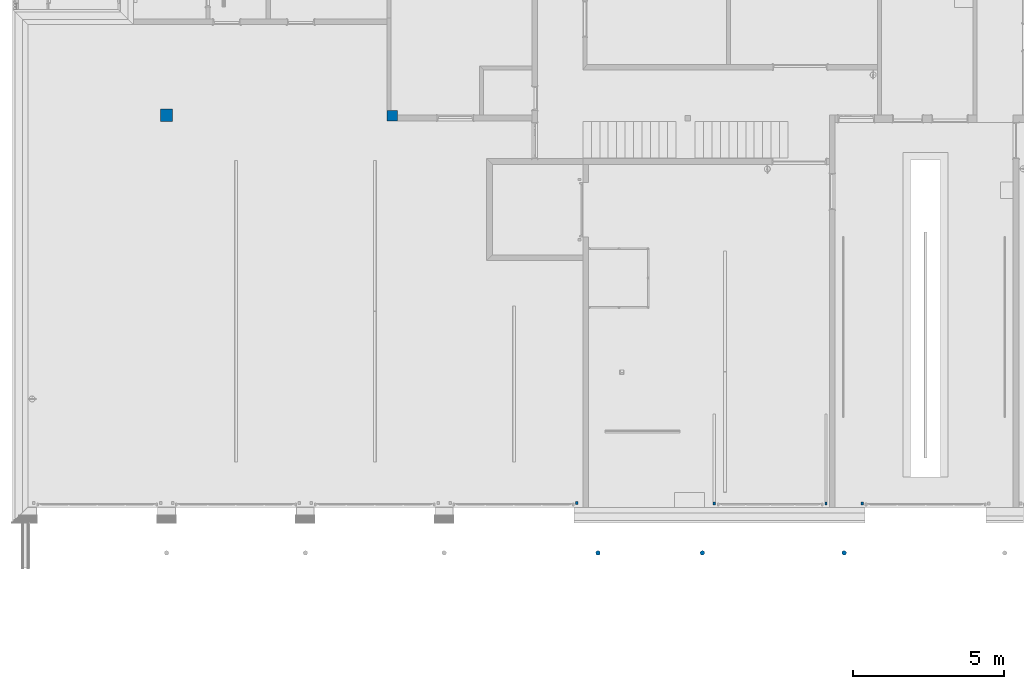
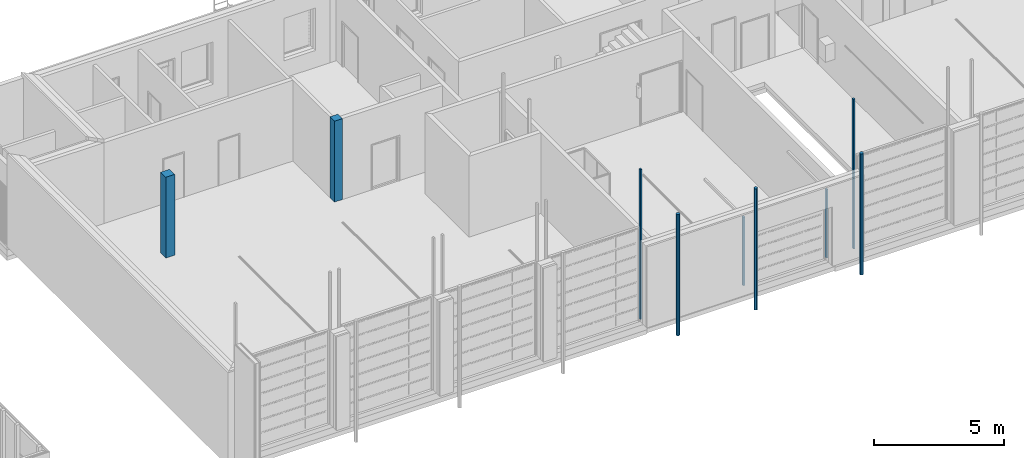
# One storey, part 3 of 112: 9 columns.
"""IFC2X3 building model written with IfcOpenShell, lengths in millimetres."""

from ifc_helpers import new_model, entity, si_unit, converted_unit, derived_unit, money_unit, direction, frame, origin_with_axes, origin_2d_with_axis, place, context, subcontext, project, spatial, rectangle, circle, extrude, material, type_object, element, save


model = new_model("IFC2X3")

# Units and contexts
model_context = context("Model", 3, precision=0.01, world=origin_with_axes(), true_north=direction((0.0, 1.0)))
body_context = subcontext(model_context, "Body", "Model", "MODEL_VIEW")
ifc_project = project(units=[si_unit("LENGTHUNIT", "METRE", prefix="MILLI"), si_unit("AREAUNIT", "SQUARE_METRE"), si_unit("VOLUMEUNIT", "CUBIC_METRE"), converted_unit("PLANEANGLEUNIT", "DEGREE", entity("IfcPlaneAngleMeasure", 0.0174532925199), si_unit("PLANEANGLEUNIT", "RADIAN"), dimensions=[0, 0, 0, 0, 0, 0, 0]), si_unit("SOLIDANGLEUNIT", "STERADIAN"), money_unit("EUR"), converted_unit("TIMEUNIT", "Year", entity("IfcTimeMeasure", 31556926.0), si_unit("TIMEUNIT", "SECOND"), dimensions=[0, 0, 1, 0, 0, 0, 0]), si_unit("MASSUNIT", "GRAM", prefix="KILO"), si_unit("THERMODYNAMICTEMPERATUREUNIT", "DEGREE_CELSIUS"), si_unit("LUMINOUSINTENSITYUNIT", "LUMEN"), si_unit("ENERGYUNIT", "JOULE", prefix="MEGA"), derived_unit("THERMALCONDUCTANCEUNIT", [(si_unit("POWERUNIT", "WATT"), 1), (si_unit("LENGTHUNIT", "METRE"), -1), (si_unit("THERMODYNAMICTEMPERATUREUNIT", "KELVIN"), -1)]), derived_unit("SPECIFICHEATCAPACITYUNIT", [(si_unit("ENERGYUNIT", "JOULE"), 1), (si_unit("MASSUNIT", "GRAM", prefix="KILO"), -1), (si_unit("THERMODYNAMICTEMPERATUREUNIT", "KELVIN"), -1)]), derived_unit("MASSDENSITYUNIT", [(si_unit("MASSUNIT", "GRAM", prefix="KILO"), 1), (si_unit("VOLUMEUNIT", "CUBIC_METRE"), -1)])], contexts=[model_context])

# Site, building, storey
site_placement = place(None, origin_with_axes())
site = spatial("IfcSite", under=ifc_project, at=site_placement, Name="Politse- ja Piirivalveameti ning Päästeameti ühishoone", CompositionType="ELEMENT")
building_placement = place(site_placement, origin_with_axes())
building = spatial("IfcBuilding", under=site, at=building_placement, Name="Politse- ja Piirivalveameti ning Päästeameti ühishoone", CompositionType="ELEMENT")
storey_placement = place(building_placement, origin_with_axes())
storey = spatial("IfcBuildingStorey", under=building, at=storey_placement, Name="Esimene korrus", CompositionType="ELEMENT", Elevation=0.0)

# Columns
ifc_material_1 = material(Name="ET-02_Raudbetoon - Toode")
column_type_1 = type_object("IfcColumnType", Name="ET-02_Raudbetoon - Toode 400 x 400", PredefinedType="COLUMN")
column_1_placement = place(storey_placement, frame((4600.00702778, 13000.0198611, 0.0), z_axis=(0.0, 0.0, 1.0), x_axis=(1.0, 0.0, 0.0)))
element("IfcColumn", 1, at=column_1_placement, inside=storey, type_object=column_type_1, material=ifc_material_1, Name="POST", ObjectType="COLUMN", context=body_context, shape_type="SweptSolid", body=[
    extrude(rectangle(XDim=400.0, YDim=400.0, at=origin_2d_with_axis()), origin_with_axes(), (0.0, 0.0, 1.0), 3800.0),
])
ifc_material_2 = material(Name="KON-00_GENEERILINE - KONSTRUKTSIOON")
column_type_2 = type_object("IfcColumnType", Name="KON-00_GENEERILINE - KONSTRUKTSIOON D150", PredefinedType="COLUMN")
for number, where, z_axis, x_axis, name in (
    (2, (27059.9985258, -1510.44069478, 0.0), (0.0, 0.0, 1.0), (1.0, 0.0, 0.0), "POST"),
    (3, (18899.9985256, -1510.44069478, 0.0), (0.0, 0.0, 1.0), (1.0, 0.0, 0.0), "POST"),
    (4, (22360.0285258, -1510.44069478, 0.0), (0.0, 0.0, 1.0), (1.0, 0.0, 0.0), "POST"),
):
    element("IfcColumn", number, at=place(storey_placement, frame(where, z_axis=z_axis, x_axis=x_axis)), inside=storey, type_object=column_type_2, material=ifc_material_2, Name=name, ObjectType="COLUMN", context=body_context, shape_type="SweptSolid", body=[
        extrude(circle(Radius=75.0, at=origin_2d_with_axis()), origin_with_axes(), (0.0, 0.0, 1.0), 5700.0),
    ])
column_type_3 = type_object("IfcColumnType", Name="ET-02_Raudbetoon - Toode 350 x 350", PredefinedType="COLUMN")
column_2_placement = place(storey_placement, frame((12075.1982011, 12985.0197187, 0.0), z_axis=(0.0, 0.0, 1.0), x_axis=(1.0, 0.0, 0.0)))
element("IfcColumn", 5, at=column_2_placement, inside=storey, type_object=column_type_3, material=ifc_material_1, Name="POST", ObjectType="COLUMN", context=body_context, shape_type="SweptSolid", body=[
    extrude(rectangle(XDim=350.0, YDim=350.0, at=origin_2d_with_axis()), origin_with_axes(), (0.0, 0.0, 1.0), 3800.0),
])
column_type_4 = type_object("IfcColumnType", Name="KON-00_GENEERILINE - KONSTRUKTSIOON 80 x 100", PredefinedType="COLUMN")
for number, where, z_axis, x_axis, name in (
    (6, (18199.6782559, 146.588164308, 0.0), (0.0, 0.0, 1.0), (1.0, 0.0, 0.0), "POST"),
    (7, (27659.4992359, 130.739431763, 0.0), (0.0, 0.0, 1.0), (1.0, 0.0, 0.0), "POST"),
):
    element("IfcColumn", number, at=place(storey_placement, frame(where, z_axis=z_axis, x_axis=x_axis)), inside=storey, type_object=column_type_4, material=ifc_material_2, Name=name, ObjectType="COLUMN", context=body_context, shape_type="SweptSolid", body=[
        extrude(rectangle(XDim=80.0, YDim=100.0, at=origin_2d_with_axis()), origin_with_axes(), (0.0, 0.0, 1.0), 7040.0),
    ])
for number, where, z_axis, x_axis, name in (
    (8, (22759.721466, 130.739431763, 0.0), (0.0, 0.0, 1.0), (1.0, 0.0, 0.0), "POST"),
    (9, (26459.9276962, 130.739431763, 0.0), (0.0, 0.0, 1.0), (1.0, 0.0, 0.0), "POST"),
):
    element("IfcColumn", number, at=place(storey_placement, frame(where, z_axis=z_axis, x_axis=x_axis)), inside=storey, type_object=column_type_4, material=ifc_material_2, Name=name, ObjectType="COLUMN", context=body_context, shape_type="SweptSolid", body=[
        extrude(rectangle(XDim=80.0, YDim=100.0, at=origin_2d_with_axis()), origin_with_axes(), (0.0, 0.0, 1.0), 3215.0),
    ])

save(model, "model.ifc")
